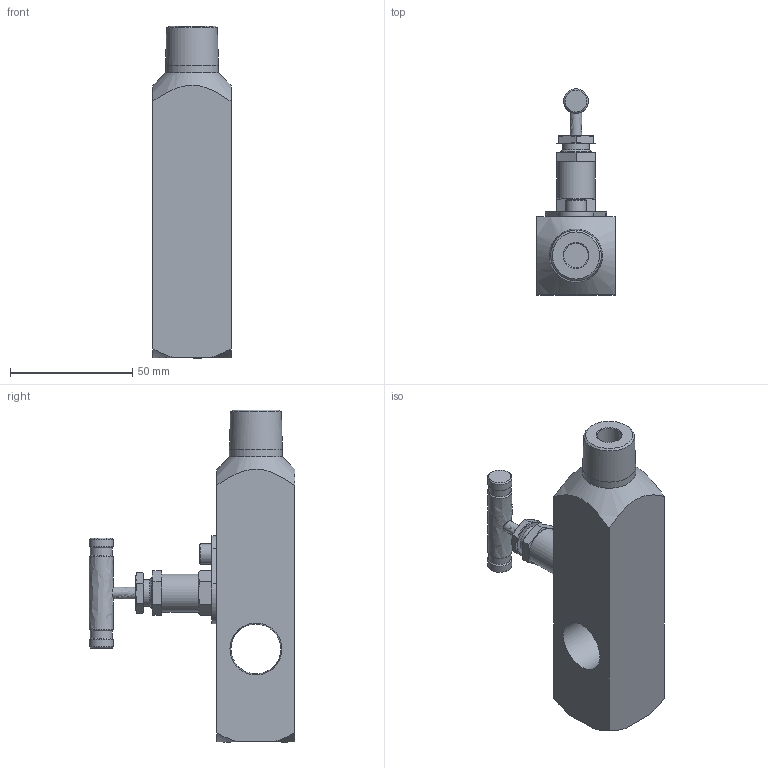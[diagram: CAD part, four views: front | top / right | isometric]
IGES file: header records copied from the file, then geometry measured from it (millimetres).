
Global section: file name: SGRV-M8N-F8N; native system: Autodesk Inventor 2016; preprocessor: unknown; author: DESIGNPC2; date: 20161008.114808; units: millimetre
Bounding box: 32 x 84.35 x 136 mm (x, y, z)
Volume: 116890 mm3; surface area: 25683.8 mm2
Topology: 3 solids, 3 shells, 143 faces, 362 edges, 239 vertices
Faces by surface type: bspline 143
